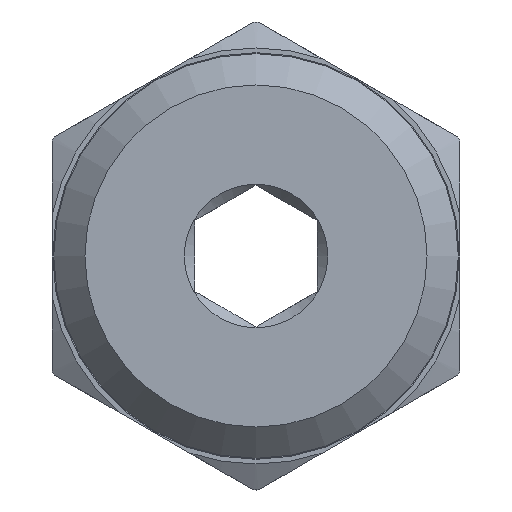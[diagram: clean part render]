
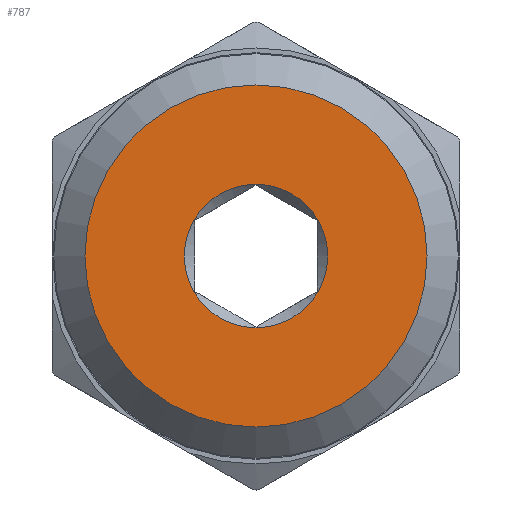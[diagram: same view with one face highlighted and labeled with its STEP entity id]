
A CAD part, front view. The second image highlights one B-rep face of the part: STEP entity #787.
In plain terms, the highlighted planar face has unit normal (0, -1, 0).
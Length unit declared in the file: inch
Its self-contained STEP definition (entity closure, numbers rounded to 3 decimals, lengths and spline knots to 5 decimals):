
#41=FACE_BOUND('',#165,.T.);
#66=CIRCLE('',#863,0.069);
#67=CIRCLE('',#865,0.1645);
#120=FACE_OUTER_BOUND('',#164,.T.);
#164=EDGE_LOOP('',(#640));
#165=EDGE_LOOP('',(#641));
#358=VERTEX_POINT('',#1356);
#359=VERTEX_POINT('',#1360);
#465=EDGE_CURVE('',#358,#358,#66,.T.);
#466=EDGE_CURVE('',#359,#359,#67,.T.);
#640=ORIENTED_EDGE('',*,*,#466,.F.);
#641=ORIENTED_EDGE('',*,*,#465,.F.);
#756=PLANE('',#864);
#787=ADVANCED_FACE('',(#120,#41),#756,.T.);
#863=AXIS2_PLACEMENT_3D('',#1358,#1029,#1030);
#864=AXIS2_PLACEMENT_3D('',#1359,#1031,#1032);
#865=AXIS2_PLACEMENT_3D('',#1361,#1033,#1034);
#1029=DIRECTION('center_axis',(0.,-1.,0.));
#1030=DIRECTION('ref_axis',(0.,0.,1.));
#1031=DIRECTION('center_axis',(0.,-1.,0.));
#1032=DIRECTION('ref_axis',(0.,0.,-1.));
#1033=DIRECTION('center_axis',(0.,1.,0.));
#1034=DIRECTION('ref_axis',(0.,0.,1.));
#1356=CARTESIAN_POINT('',(0.,0.,-0.069));
#1358=CARTESIAN_POINT('Origin',(0.,0.,0.));
#1359=CARTESIAN_POINT('Origin',(0.,0.,-0.059));
#1360=CARTESIAN_POINT('',(0.,0.,-0.1645));
#1361=CARTESIAN_POINT('Origin',(0.,0.,0.));
